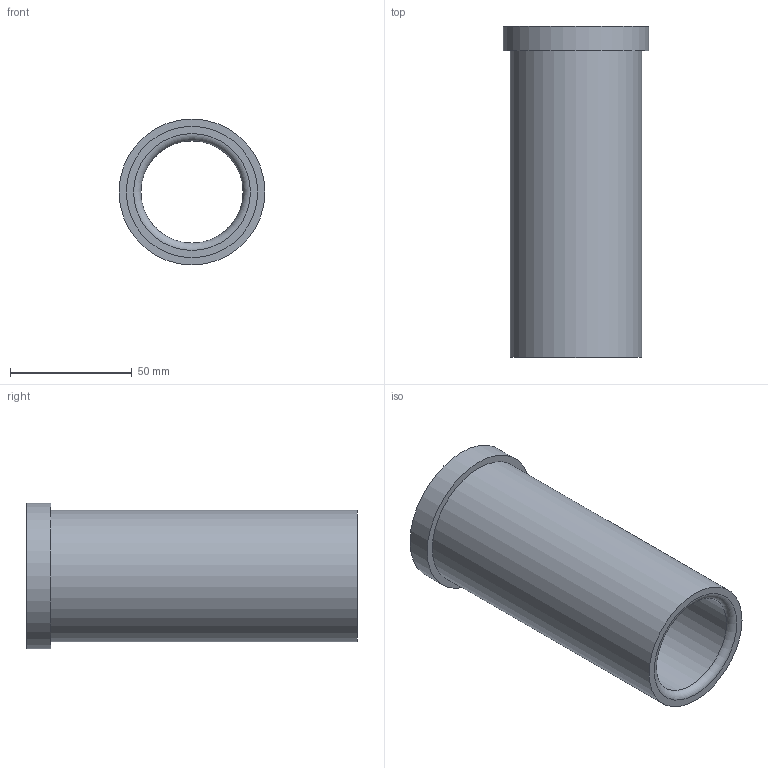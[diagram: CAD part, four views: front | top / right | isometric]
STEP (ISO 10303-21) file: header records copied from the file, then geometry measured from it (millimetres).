
FILE_DESCRIPTION(/* description */ ('STEP AP214'),/* implementation_level */ '2;1');
FILE_NAME(/* name */ '03_12_17867',/* time_stamp */ '2023-06-15T11:35:46+02:00',/* author */ ('License CC BY-ND 4.0'),/* organization */ ('CADENAS'),/* preprocessor_version */ 'ST-DEVELOPER v19.3',/* originating_system */ 'PARTsolutions',/* authorisation */ ' ');
FILE_SCHEMA (('AUTOMOTIVE_DESIGN {1 0 10303 214 3 1 1}'));
Length unit declared in the file: millimetre
Products named in the file (1): VA_Bushing_17867
Bounding box: 60 x 136 x 60 mm (x, y, z)
Volume: 126808.1 mm3; surface area: 43806.2 mm2
Topology: 1 solids, 1 shells, 10 faces, 16 edges, 10 vertices
Faces by surface type: cylinder 4, plane 4, torus 2
Full cylindrical faces by diameter (mm): 42 x1, 42.6 x1, 54 x1, 60 x1
Entity records: 302 total; most frequent: DIRECTION 42, CARTESIAN_POINT 31, AXIS2_PLACEMENT_3D 21, ORIENTED_EDGE 20, EDGE_LOOP 20, FACE_BOUND 20, EDGE_CURVE 10, VERTEX_POINT 10
